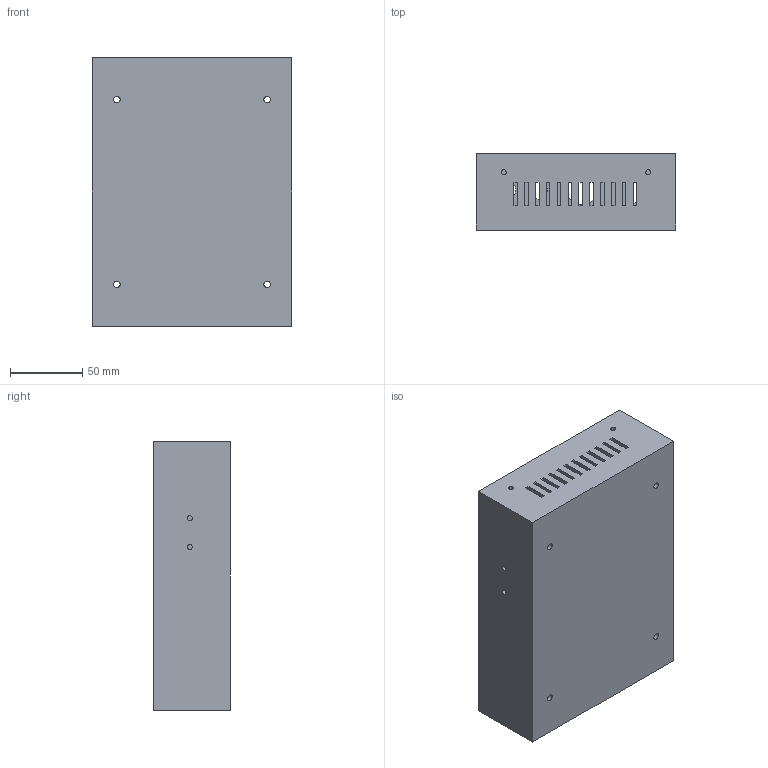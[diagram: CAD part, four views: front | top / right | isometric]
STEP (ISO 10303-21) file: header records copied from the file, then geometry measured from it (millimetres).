
FILE_DESCRIPTION(('Open CASCADE Model'),'2;1');
FILE_NAME('Open CASCADE Shape Model','2026-10-18T06:41:04',('Author'),( 'Open CASCADE'),'Open CASCADE STEP processor 7.9','Open CASCADE 7.9' ,'Unknown');
FILE_SCHEMA(('AUTOMOTIVE_DESIGN { 1 0 10303 214 1 1 1 1 }'));
Length unit declared in the file: millimetre
Products named in the file (1): Open CASCADE STEP translator 7.9 1
Bounding box: 138 x 53 x 186 mm (x, y, z)
Volume: 181107 mm3; surface area: 118389.9 mm2
Topology: 1 solids, 1 shells, 175 faces, 474 edges, 316 vertices
Faces by surface type: plane 143, cylinder 32
Full cylindrical faces by diameter (mm): 3.4 x4, 4.2 x10, 4.5 x4, 8 x4, 12.5 x2, 20.5 x2
Entity records: 11839 total; most frequent: CARTESIAN_POINT 2040, DIRECTION 1817, LINE 1294, VECTOR 1294, ORIENTED_EDGE 948, PCURVE 948, DEFINITIONAL_REPRESENTATION 948, EDGE_CURVE 474
